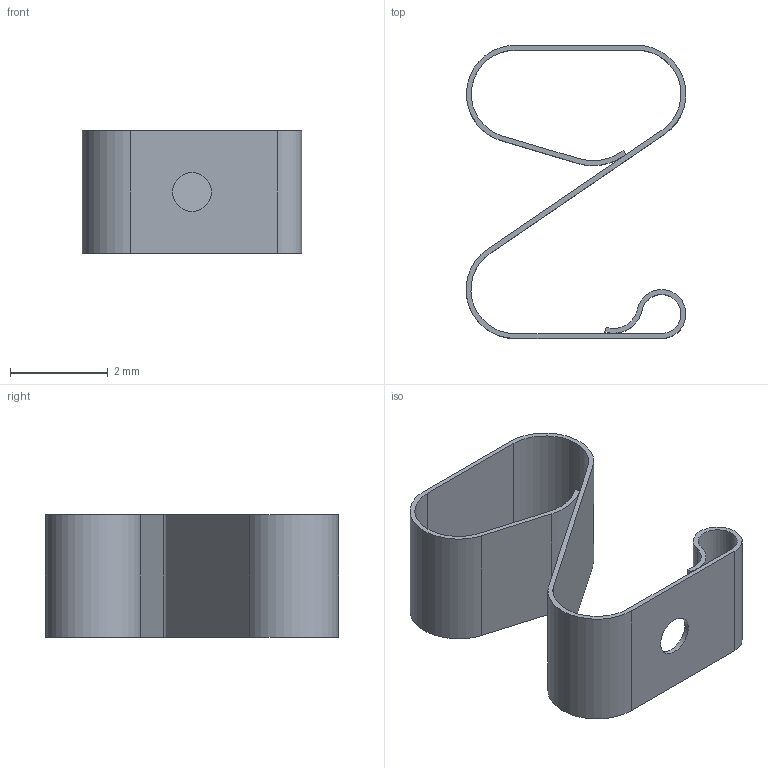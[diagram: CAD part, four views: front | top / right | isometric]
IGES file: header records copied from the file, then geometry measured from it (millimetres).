
Start section:  PTC IGES file: 5G2545060B.igs
Global section: file name: 5G2545060B.igs; native system: Creo Parametric by PTC Inc.; preprocessor: 2015200; author: jairo; organization: Unknown; date: 20180528.150548; units: millimetre
Bounding box: 4.5 x 6 x 2.5 mm (x, y, z)
Surface area: 119 mm2 (no closed solid volume)
Topology: 0 solids, 0 shells, 28 faces, 156 edges, 156 vertices
Faces by surface type: bspline 14, revolution 14
